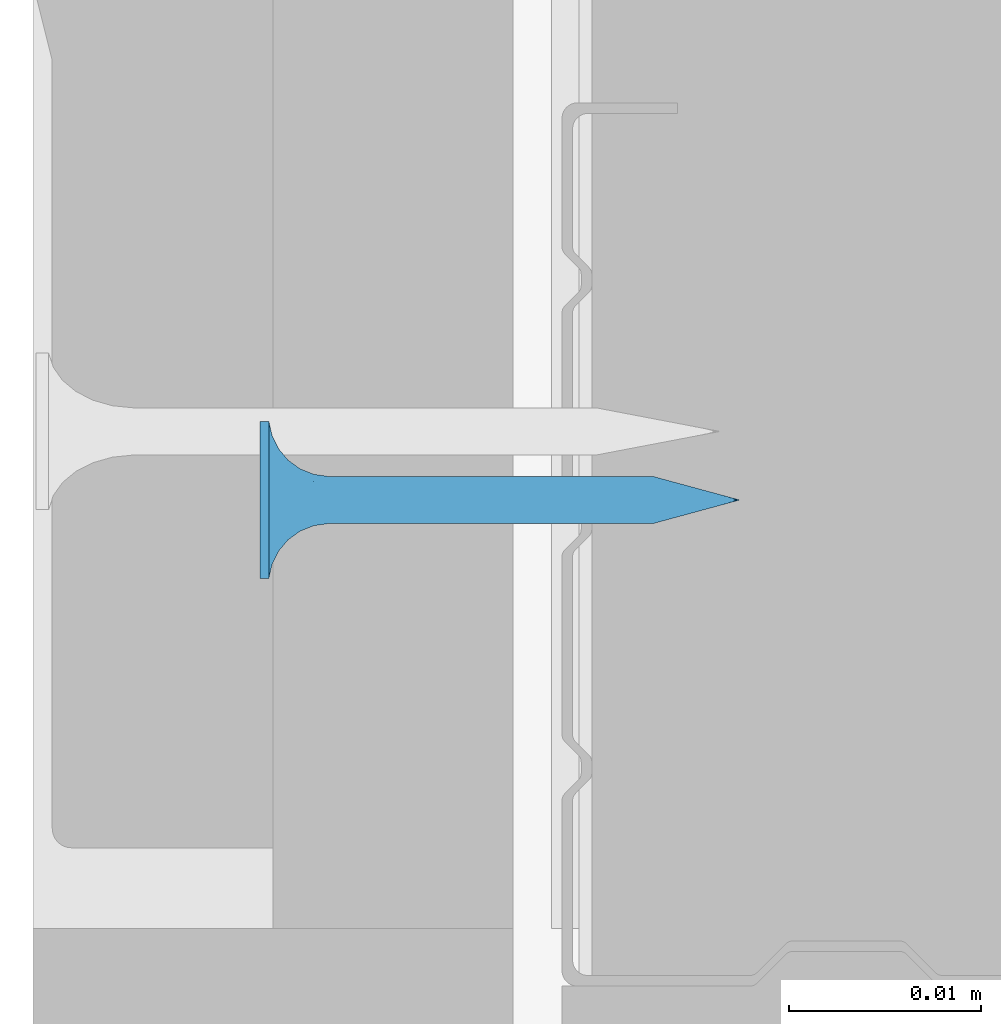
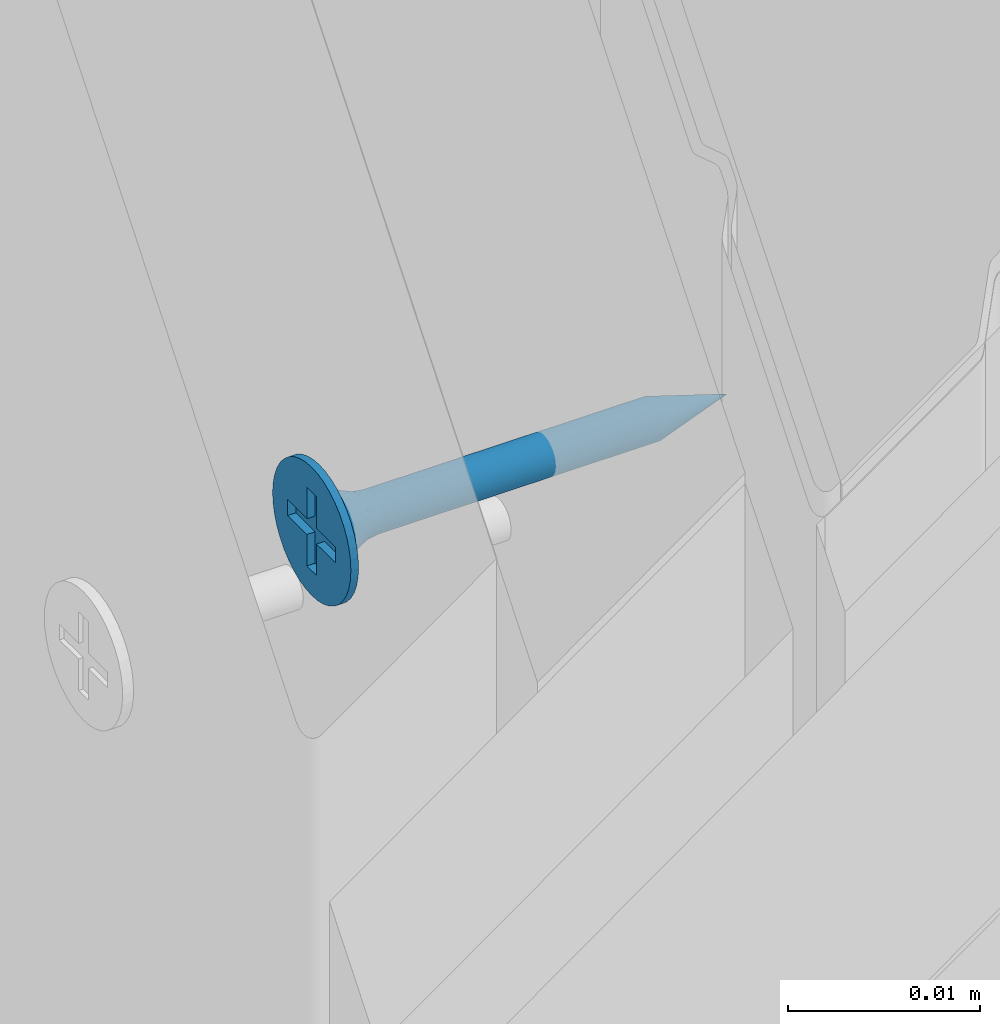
# One storey, part 53 of 92: 1 wall.
"""IFC2X3 building model written with IfcOpenShell, lengths in millimetres."""

from ifc_helpers import new_model, si_unit, frame, origin_with_axes, place, context, subcontext, project, spatial, faceted_brep, material, type_object, element, save


model = new_model("IFC2X3")

# Units and contexts
model_context = context("Model", 3, world=origin_with_axes())
body_context = subcontext(model_context, "Body", "Model", "MODEL_VIEW")
ifc_project = project(units=[si_unit("LENGTHUNIT", "METRE", prefix="MILLI"), si_unit("AREAUNIT", "SQUARE_METRE"), si_unit("VOLUMEUNIT", "CUBIC_METRE")], contexts=[model_context])

# Site, building, storey
site_placement = place(None, origin_with_axes())
site = spatial("IfcSite", under=ifc_project, at=site_placement, Name="Default Site", CompositionType="ELEMENT")
building_placement = place(site_placement, origin_with_axes())
building = spatial("IfcBuilding", under=site, at=building_placement, Name="Default Building", CompositionType="ELEMENT")
storey_placement = place(building_placement, origin_with_axes())
storey = spatial("IfcBuildingStorey", under=building, at=storey_placement, Name="Default Building Storey", CompositionType="ELEMENT", Elevation=0.0)

# Wall
ifc_material = material(Name="Default")
wall_type = type_object("IfcWallType", Name="Wkręt RIGIPS TN 25#16", PredefinedType="NOTDEFINED")
wall_placement = place(storey_placement, frame((3402.8417088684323, 2.8723069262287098, 392.1937980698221), z_axis=(0.0, 0.0, 1.0), x_axis=(4.091171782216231e-16, -1.0, 0.0)))
element("IfcWall", 1, at=wall_placement, inside=storey, type_object=wall_type, material=ifc_material, Name="Wkręt RIGIPS TN 25", context=body_context, shape_type="Brep", body=[
    faceted_brep([(-141.48753293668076, -3390.5567221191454, 555.1619773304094), (-141.48753293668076, -3391.0209445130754, 555.1619773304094), (-141.53774659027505, -3391.0209445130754, 555.8000000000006), (-141.53774659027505, -3390.5567221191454, 555.8000000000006), (-141.33812900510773, -3390.5567221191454, 554.5396649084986), (-141.33812900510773, -3391.0209445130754, 554.5396649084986), (-141.0932132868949, -3390.5567221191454, 553.948386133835), (-141.0932132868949, -3391.0209445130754, 553.948386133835), (-140.75881656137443, -3390.5567221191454, 553.4027002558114), (-140.75881656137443, -3391.0209445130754, 553.4027002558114), (-140.34317265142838, -3391.0209445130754, 552.9160436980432), (-140.45417279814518, -3390.5567221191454, 553.0314906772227), (-139.85651609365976, -3391.0209445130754, 552.5003997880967), (-140.10800974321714, -3390.5567221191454, 552.6986613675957), (-139.72512626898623, -3390.5567221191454, 552.4088260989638), (-139.31083021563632, -3391.0209445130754, 552.1660030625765), (-139.31083021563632, -3390.5567221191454, 552.1660030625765), (-138.7195514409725, -3391.0209445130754, 551.9210873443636), (-138.87086516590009, -3390.5567221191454, 551.9735585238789), (-138.41133029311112, -3390.5567221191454, 551.8341602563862), (-138.0972390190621, -3391.0209445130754, 551.7716834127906), (-137.93859616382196, -3390.5567221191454, 551.74974052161), (-137.45921634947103, -3391.0209445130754, 551.7214697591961), (-137.45921634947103, -3390.5567221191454, 551.7214697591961), (-136.82119367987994, -3390.5567221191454, 551.7716834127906), (-136.82119367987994, -3391.0209445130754, 551.7716834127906), (-136.19888125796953, -3390.5567221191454, 551.9210873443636), (-136.19888125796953, -3391.0209445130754, 551.9210873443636), (-135.60760248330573, -3390.5567221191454, 552.1660030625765), (-135.60760248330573, -3391.0209445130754, 552.1660030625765), (-135.06191660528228, -3390.5567221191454, 552.5003997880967), (-135.06191660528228, -3391.0209445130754, 552.5003997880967), (-134.5752600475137, -3390.5567221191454, 552.9160436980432), (-134.5752600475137, -3391.0209445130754, 552.9160436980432), (-134.1596161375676, -3390.5567221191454, 553.4027002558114), (-134.1596161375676, -3391.0209445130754, 553.4027002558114), (-133.82521941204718, -3390.5567221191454, 553.948386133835), (-133.82521941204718, -3391.0209445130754, 553.948386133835), (-133.5803036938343, -3390.5567221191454, 554.5396649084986), (-133.5803036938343, -3391.0209445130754, 554.5396649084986), (-133.380686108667, -3391.0209445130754, 555.8000000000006), (-133.380686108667, -3390.5567221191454, 555.8000000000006), (-133.43089976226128, -3390.5567221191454, 556.4380226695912), (-133.43089976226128, -3391.0209445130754, 556.4380226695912), (-133.43089976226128, -3391.0209445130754, 555.1619773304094), (-133.43089976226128, -3390.5567221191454, 555.1619773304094), (-133.5803036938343, -3390.5567221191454, 557.060335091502), (-133.5803036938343, -3391.0209445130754, 557.060335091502), (-133.82521941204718, -3390.5567221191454, 557.6516138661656), (-133.82521941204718, -3391.0209445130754, 557.6516138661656), (-134.1596161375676, -3390.5567221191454, 558.1972997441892), (-134.1596161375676, -3391.0209445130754, 558.1972997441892), (-134.5752600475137, -3390.5567221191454, 558.6839563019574), (-134.5752600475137, -3391.0209445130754, 558.6839563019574), (-135.06191660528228, -3390.5567221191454, 559.0996002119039), (-135.06191660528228, -3391.0209445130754, 559.0996002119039), (-135.60760248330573, -3390.5567221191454, 559.4339969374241), (-135.60760248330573, -3391.0209445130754, 559.4339969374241), (-136.19888125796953, -3390.5567221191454, 559.678912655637), (-136.19888125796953, -3391.0209445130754, 559.678912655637), (-136.82119367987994, -3390.5567221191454, 559.82831658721), (-136.82119367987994, -3391.0209445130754, 559.82831658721), (-137.45921634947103, -3390.5567221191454, 559.8785302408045), (-137.45921634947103, -3391.0209445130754, 559.8785302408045), (-138.0972390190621, -3390.5567221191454, 559.82831658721), (-138.0972390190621, -3391.0209445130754, 559.82831658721), (-138.7195514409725, -3390.5567221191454, 559.678912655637), (-138.7195514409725, -3391.0209445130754, 559.678912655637), (-139.31083021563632, -3390.5567221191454, 559.4339969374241), (-139.31083021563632, -3391.0209445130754, 559.4339969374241), (-139.85651609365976, -3390.5567221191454, 559.0996002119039), (-139.85651609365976, -3391.0209445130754, 559.0996002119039), (-140.34317265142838, -3390.5567221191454, 558.6839563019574), (-140.34317265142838, -3391.0209445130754, 558.6839563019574), (-140.75881656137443, -3390.5567221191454, 558.1972997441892), (-140.75881656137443, -3391.0209445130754, 558.1972997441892), (-141.0932132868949, -3390.5567221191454, 557.6516138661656), (-141.0932132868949, -3391.0209445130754, 557.6516138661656), (-141.33812900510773, -3390.5567221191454, 557.060335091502), (-141.33812900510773, -3391.0209445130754, 557.060335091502), (-141.48753293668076, -3390.5567221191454, 556.4380226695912), (-141.48753293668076, -3391.0209445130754, 556.4380226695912), (-137.65172779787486, -3387.475459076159, 554.5845305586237), (-137.45921634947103, -3387.475459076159, 554.5693795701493), (-137.8060615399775, -3388.2297325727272, 554.5055561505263), (-137.45921634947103, -3388.2297325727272, 554.4598930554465), (-137.8394989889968, -3387.475459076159, 554.6296104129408), (-138.12926982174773, -3388.2297325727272, 554.6394333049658), (-138.0179063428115, -3387.475459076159, 554.7035091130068), (-138.18255689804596, -3387.475459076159, 554.8044072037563), (-138.40681506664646, -3388.2297325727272, 554.8524012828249), (-138.3293964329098, -3387.475459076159, 554.9298199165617), (-138.45480914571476, -3387.475459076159, 555.0766594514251), (-138.61978304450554, -3388.2297325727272, 555.1299465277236), (-138.5557072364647, -3387.475459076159, 555.2413100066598), (-138.7536601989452, -3388.2297325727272, 555.453154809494), (-138.62960593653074, -3387.475459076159, 555.4197173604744), (-138.6746857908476, -3387.475459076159, 555.6074885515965), (-138.7993232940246, -3388.2297325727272, 555.7999999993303), (-138.68983677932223, -3387.475459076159, 555.8000000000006), (-138.6746857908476, -3387.475459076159, 555.9925114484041), (-138.7536601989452, -3388.2297325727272, 556.1468451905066), (-138.62960593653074, -3387.475459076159, 556.1802826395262), (-138.61978304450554, -3388.2297325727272, 556.470053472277), (-138.5557072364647, -3387.475459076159, 556.3586899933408), (-138.45480914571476, -3387.475459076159, 556.5233405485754), (-138.40681506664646, -3388.2297325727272, 556.7475987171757), (-138.3293964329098, -3387.475459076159, 556.6701800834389), (-138.18255689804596, -3387.475459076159, 556.7955927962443), (-138.12926982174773, -3388.2297325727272, 556.9605666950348), (-138.0179063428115, -3387.475459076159, 556.8964908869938), (-137.8060615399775, -3388.2297325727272, 557.0944438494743), (-137.8394989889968, -3387.475459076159, 556.9703895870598), (-137.65172779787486, -3387.475459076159, 557.0154694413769), (-137.45921634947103, -3388.2297325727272, 557.1401069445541), (-137.45921634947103, -3387.475459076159, 557.0306204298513), (-137.2667049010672, -3387.475459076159, 557.0154694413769), (-137.11237115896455, -3388.2297325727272, 557.0944438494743), (-137.07893370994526, -3387.475459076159, 556.9703895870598), (-136.78916287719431, -3388.2297325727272, 556.9605666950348), (-136.90052635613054, -3387.475459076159, 556.8964908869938), (-136.7358758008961, -3387.475459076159, 556.7955927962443), (-136.5116176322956, -3388.2297325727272, 556.7475987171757), (-136.58903626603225, -3387.475459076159, 556.6701800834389), (-136.46362355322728, -3387.475459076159, 556.5233405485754), (-136.29864965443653, -3388.2297325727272, 556.470053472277), (-136.36272546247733, -3387.475459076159, 556.3586899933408), (-136.16477249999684, -3388.2297325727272, 556.1468451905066), (-136.2888267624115, -3387.475459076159, 556.1802826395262), (-136.24374690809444, -3387.475459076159, 555.9925114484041), (-136.11910940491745, -3388.2297325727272, 555.7999999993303), (-136.22859591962, -3387.475459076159, 555.8000000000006), (-136.24374690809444, -3387.475459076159, 555.6074885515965), (-136.16477249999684, -3388.2297325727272, 555.453154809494), (-136.2888267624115, -3387.475459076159, 555.4197173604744), (-136.29864965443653, -3388.2297325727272, 555.1299465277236), (-136.36272546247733, -3387.475459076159, 555.2413100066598), (-136.46362355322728, -3387.475459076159, 555.0766594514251), (-136.5116176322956, -3388.2297325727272, 554.8524012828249), (-136.58903626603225, -3387.475459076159, 554.9298199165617), (-136.7358758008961, -3387.475459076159, 554.8044072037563), (-136.78916287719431, -3388.2297325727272, 554.6394333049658), (-136.90052635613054, -3387.475459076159, 554.7035091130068), (-137.11237115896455, -3388.2297325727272, 554.5055561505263), (-137.07893370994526, -3387.475459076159, 554.6296104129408), (-137.2667049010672, -3387.475459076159, 554.5845305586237), (-137.45921634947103, -3388.9361426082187, 554.1737111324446), (-137.88013087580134, -3388.9361426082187, 554.2291255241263), (-138.27236078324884, -3388.9361426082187, 554.3915925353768), (-138.60917621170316, -3388.9361426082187, 554.6500401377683), (-138.8676238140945, -3388.9361426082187, 554.9868555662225), (-139.03009082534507, -3388.9361426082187, 555.3790854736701), (-139.08550521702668, -3388.9361426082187, 555.7999999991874), (-139.03009082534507, -3388.9361426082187, 556.2209145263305), (-138.8676238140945, -3388.9361426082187, 556.6131444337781), (-138.60917621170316, -3388.9361426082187, 556.9499598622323), (-138.27236078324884, -3388.9361426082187, 557.2084074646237), (-137.88013087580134, -3388.9361426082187, 557.3708744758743), (-137.45921634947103, -3388.9361426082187, 557.426288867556), (-137.0383018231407, -3388.9361426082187, 557.3708744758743), (-136.6460719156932, -3388.9361426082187, 557.2084074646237), (-136.30925648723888, -3388.9361426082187, 556.9499598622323), (-136.05080888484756, -3388.9361426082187, 556.6131444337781), (-135.888341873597, -3388.9361426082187, 556.2209145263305), (-135.8329274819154, -3388.9361426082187, 555.7999999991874), (-135.888341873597, -3388.9361426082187, 555.3790854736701), (-136.05080888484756, -3388.9361426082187, 554.9868555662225), (-136.30925648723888, -3388.9361426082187, 554.6500401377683), (-136.6460719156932, -3388.9361426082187, 554.3915925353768), (-137.0383018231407, -3388.9361426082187, 554.2291255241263), (-137.45921634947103, -3389.5539382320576, 553.7273430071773), (-137.9956594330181, -3389.5539382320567, 553.7979670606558), (-138.4955448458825, -3389.5539382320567, 554.0050264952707), (-138.92480608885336, -3389.5539382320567, 554.3344102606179), (-139.2541898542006, -3389.5539382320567, 554.7636715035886), (-139.46124928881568, -3389.5539382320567, 555.2635569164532), (-139.53187334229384, -3389.5539382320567, 555.799999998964), (-139.46124928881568, -3389.5539382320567, 556.3364430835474), (-139.2541898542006, -3389.5539382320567, 556.836328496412), (-138.92480608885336, -3389.5539382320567, 557.2655897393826), (-138.4955448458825, -3389.5539382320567, 557.5949735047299), (-137.9956594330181, -3389.5539382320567, 557.8020329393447), (-137.45921634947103, -3389.5539382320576, 557.8726569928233), (-136.92277326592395, -3389.5539382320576, 557.8020329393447), (-136.42288785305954, -3389.5539382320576, 557.5949735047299), (-135.9936266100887, -3389.5539382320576, 557.2655897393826), (-135.66424284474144, -3389.5539382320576, 556.836328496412), (-135.45718341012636, -3389.5539382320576, 556.3364430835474), (-135.3865593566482, -3389.5539382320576, 555.799999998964), (-135.45718341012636, -3389.5539382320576, 555.2635569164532), (-135.66424284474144, -3389.5539382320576, 554.7636715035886), (-135.9936266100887, -3389.5539382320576, 554.3344102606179), (-136.42288785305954, -3389.5539382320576, 554.0050264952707), (-136.92277326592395, -3389.5539382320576, 553.7979670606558), (-137.45921634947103, -3390.047479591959, 553.1465392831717), (-138.14598252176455, -3390.047479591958, 553.2369539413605), (-138.7859467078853, -3390.047479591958, 553.5020355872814), (-139.33549641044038, -3390.047479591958, 553.9237199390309), (-139.75718076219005, -3390.047479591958, 554.4732696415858), (-140.02226240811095, -3390.047479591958, 555.1132338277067), (-140.11267706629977, -3390.047479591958, 555.7999999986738), (-140.02226240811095, -3390.047479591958, 556.4867661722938), (-139.75718076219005, -3390.047479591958, 557.1267303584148), (-139.33549641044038, -3390.047479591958, 557.6762800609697), (-138.7859467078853, -3390.047479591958, 558.0979644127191), (-138.14598252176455, -3390.047479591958, 558.3630460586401), (-137.45921634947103, -3390.047479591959, 558.4534607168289), (-136.77245017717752, -3390.047479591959, 558.3630460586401), (-136.13248599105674, -3390.047479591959, 558.0979644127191), (-135.58293628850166, -3390.047479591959, 557.6762800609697), (-135.161251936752, -3390.047479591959, 557.1267303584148), (-134.89617029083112, -3390.047479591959, 556.4867661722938), (-134.80575563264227, -3390.047479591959, 555.7999999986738), (-134.89617029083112, -3390.047479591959, 555.1132338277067), (-135.161251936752, -3390.047479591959, 554.4732696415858), (-135.58293628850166, -3390.047479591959, 553.9237199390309), (-136.13248599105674, -3390.047479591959, 553.5020355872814), (-136.77245017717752, -3390.047479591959, 553.2369539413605), (-137.45921634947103, -3390.3882942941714, 552.4648055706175), (-138.32242816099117, -3390.3882942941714, 552.5784495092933), (-139.1268135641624, -3390.3882942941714, 552.9116369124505), (-139.8175549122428, -3390.3882942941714, 553.4416614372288), (-140.3475794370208, -3390.3882942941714, 554.1324027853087), (-140.6807668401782, -3390.3882942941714, 554.9367881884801), (-140.79441077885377, -3390.3882942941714, 555.7999999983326), (-140.6807668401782, -3390.3882942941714, 556.6632118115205), (-140.3475794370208, -3390.3882942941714, 557.4675972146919), (-139.8175549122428, -3390.3882942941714, 558.1583385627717), (-139.1268135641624, -3390.3882942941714, 558.6883630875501), (-138.32242816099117, -3390.3882942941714, 559.0215504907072), (-137.45921634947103, -3390.3882942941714, 559.1351944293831), (-136.59600453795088, -3390.3882942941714, 559.0215504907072), (-135.79161913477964, -3390.3882942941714, 558.6883630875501), (-135.10087778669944, -3390.3882942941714, 558.1583385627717), (-134.57085326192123, -3390.3882942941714, 557.4675972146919), (-134.23766585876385, -3390.3882942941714, 556.6632118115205), (-134.12402192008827, -3390.3882942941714, 555.7999999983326), (-134.23766585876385, -3390.3882942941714, 554.9367881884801), (-134.57085326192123, -3390.3882942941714, 554.1324027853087), (-135.10087778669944, -3390.3882942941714, 553.4416614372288), (-135.79161913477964, -3390.3882942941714, 552.9116369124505), (-136.59600453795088, -3390.3882942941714, 552.5784495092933), (-138.6746857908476, -3370.558073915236, 555.6074885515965), (-138.68983677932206, -3370.558073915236, 555.8000000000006), (-138.62960593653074, -3370.558073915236, 555.4197173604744), (-138.5557072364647, -3370.558073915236, 555.2413100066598), (-138.45480914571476, -3370.558073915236, 555.0766594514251), (-138.3293964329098, -3370.558073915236, 554.9298199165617), (-138.18255689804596, -3370.558073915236, 554.8044072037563), (-138.0179063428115, -3370.558073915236, 554.7035091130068), (-137.8394989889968, -3370.558073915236, 554.6296104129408), (-137.65172779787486, -3370.558073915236, 554.5845305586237), (-137.45921634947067, -3370.558073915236, 554.5693795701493), (-137.2667049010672, -3370.558073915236, 554.5845305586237), (-137.07893370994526, -3370.558073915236, 554.6296104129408), (-136.90052635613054, -3370.558073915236, 554.7035091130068), (-136.7358758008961, -3370.558073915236, 554.8044072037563), (-136.58903626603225, -3370.558073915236, 554.9298199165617), (-136.46362355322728, -3370.558073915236, 555.0766594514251), (-136.36272546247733, -3370.558073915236, 555.2413100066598), (-136.28882676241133, -3370.558073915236, 555.4197173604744), (-136.2285959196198, -3370.558073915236, 555.8000000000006), (-136.24374690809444, -3370.558073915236, 555.9925114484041), (-136.24374690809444, -3370.558073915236, 555.6074885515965), (-136.28882676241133, -3370.558073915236, 556.1802826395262), (-136.36272546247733, -3370.558073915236, 556.3586899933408), (-136.46362355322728, -3370.558073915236, 556.5233405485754), (-136.58903626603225, -3370.558073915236, 556.6701800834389), (-136.7358758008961, -3370.558073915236, 556.7955927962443), (-136.90052635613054, -3370.558073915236, 556.8964908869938), (-137.07893370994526, -3370.558073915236, 556.9703895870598), (-137.2667049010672, -3370.558073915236, 557.0154694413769), (-137.45921634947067, -3370.558073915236, 557.0306204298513), (-137.65172779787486, -3370.558073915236, 557.0154694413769), (-137.8394989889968, -3370.558073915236, 556.9703895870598), (-138.0179063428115, -3370.558073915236, 556.8964908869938), (-138.18255689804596, -3370.558073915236, 556.7955927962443), (-138.3293964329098, -3370.558073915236, 556.6701800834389), (-138.45480914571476, -3370.558073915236, 556.5233405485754), (-138.5557072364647, -3370.558073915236, 556.3586899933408), (-138.62960593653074, -3370.558073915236, 556.1802826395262), (-138.6746857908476, -3370.558073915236, 555.9925114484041), (-137.45921634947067, -3366.0210335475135, 555.8000000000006), (-139.95921629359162, -3391.0209445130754, 555.2999999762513), (-139.95921629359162, -3391.0209445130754, 556.3000000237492), (-137.95921637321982, -3391.0209445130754, 556.3000000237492), (-137.95921637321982, -3391.0209445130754, 558.2999999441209), (-136.95921632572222, -3391.0209445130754, 558.2999999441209), (-136.95921632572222, -3391.0209445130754, 556.3000000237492), (-134.95921640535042, -3391.0209445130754, 556.3000000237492), (-134.95921640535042, -3391.0209445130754, 555.2999999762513), (-136.95921632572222, -3391.0209445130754, 555.2999999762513), (-136.95921632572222, -3391.0209445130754, 553.3000000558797), (-137.95921637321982, -3391.0209445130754, 553.3000000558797), (-137.95921637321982, -3391.0209445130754, 555.2999999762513), (-136.95921632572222, -3390.5289749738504, 558.2999999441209), (-137.95921637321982, -3390.5289749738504, 558.2999999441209), (-137.95921637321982, -3390.5289749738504, 556.3000000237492), (-139.95921629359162, -3390.5289749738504, 556.3000000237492), (-139.95921629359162, -3390.5289749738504, 555.2999999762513), (-137.95921637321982, -3390.5289749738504, 555.2999999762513), (-137.95921637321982, -3390.5289749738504, 553.3000000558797), (-136.95921632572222, -3390.5289749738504, 553.3000000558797), (-136.95921632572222, -3390.5289749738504, 555.2999999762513), (-134.95921640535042, -3390.5289749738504, 555.2999999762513), (-134.95921640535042, -3390.5289749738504, 556.3000000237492), (-136.95921632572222, -3390.5289749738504, 556.3000000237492)], [[[0, 1, 2, 3]], [[1, 0, 4, 5]], [[5, 4, 6, 7]], [[8, 9, 7, 6]], [[8, 10, 9]], [[8, 11, 10]], [[12, 11, 13]], [[12, 10, 11]], [[13, 14, 12]], [[14, 15, 12]], [[14, 16, 15]], [[17, 16, 18]], [[17, 15, 16]], [[18, 19, 17]], [[20, 19, 21]], [[20, 17, 19]], [[21, 22, 20]], [[21, 23, 22]], [[24, 25, 22, 23]], [[25, 24, 26, 27]], [[27, 26, 28, 29]], [[30, 31, 29, 28]], [[31, 30, 32, 33]], [[34, 35, 33, 32]], [[35, 34, 36, 37]], [[37, 36, 38, 39]], [[40, 41, 42, 43]], [[44, 45, 41, 40]], [[45, 44, 39, 38]], [[43, 42, 46, 47]], [[47, 46, 48, 49]], [[50, 51, 49, 48]], [[51, 50, 52, 53]], [[54, 55, 53, 52]], [[55, 54, 56, 57]], [[57, 56, 58, 59]], [[60, 61, 59, 58]], [[61, 60, 62, 63]], [[64, 65, 63, 62]], [[65, 64, 66, 67]], [[67, 66, 68, 69]], [[70, 71, 69, 68]], [[71, 70, 72, 73]], [[74, 75, 73, 72]], [[75, 74, 76, 77]], [[77, 76, 78, 79]], [[80, 81, 79, 78]], [[81, 80, 3, 2]], [[82, 83, 84]], [[83, 85, 84]], [[84, 86, 82]], [[84, 87, 88, 86]], [[89, 88, 87]], [[87, 90, 89]], [[90, 91, 89]], [[92, 91, 93]], [[91, 90, 93]], [[93, 94, 92]], [[93, 95, 96, 94]], [[97, 96, 95]], [[95, 98, 97]], [[98, 99, 97]], [[100, 99, 101]], [[99, 98, 101]], [[101, 102, 100]], [[101, 103, 104, 102]], [[105, 104, 103]], [[103, 106, 105]], [[106, 107, 105]], [[108, 107, 109]], [[107, 106, 109]], [[109, 110, 108]], [[109, 111, 112, 110]], [[113, 112, 111]], [[111, 114, 113]], [[114, 115, 113]], [[116, 115, 117]], [[115, 114, 117]], [[117, 118, 116]], [[117, 119, 120, 118]], [[121, 120, 119]], [[119, 122, 121]], [[122, 123, 121]], [[124, 123, 125]], [[123, 122, 125]], [[125, 126, 124]], [[125, 127, 128, 126]], [[129, 128, 127]], [[127, 130, 129]], [[130, 131, 129]], [[132, 131, 133]], [[131, 130, 133]], [[133, 134, 132]], [[133, 135, 136, 134]], [[137, 136, 135]], [[135, 138, 137]], [[138, 139, 137]], [[140, 139, 141]], [[139, 138, 141]], [[141, 142, 140]], [[141, 143, 144, 142]], [[145, 144, 143]], [[143, 85, 145]], [[85, 83, 145]], [[146, 147, 84, 85]], [[84, 147, 148, 87]], [[87, 148, 149, 90]], [[90, 149, 150, 93]], [[93, 150, 151, 95]], [[95, 151, 152, 98]], [[98, 152, 153, 101]], [[101, 153, 154, 103]], [[103, 154, 155, 106]], [[106, 155, 156, 109]], [[109, 156, 157, 111]], [[111, 157, 158, 114]], [[114, 158, 159, 117]], [[117, 159, 160, 119]], [[119, 160, 161, 122]], [[122, 161, 162, 125]], [[125, 162, 163, 127]], [[127, 163, 164, 130]], [[130, 164, 165, 133]], [[133, 165, 166, 135]], [[135, 166, 167, 138]], [[138, 167, 168, 141]], [[141, 168, 169, 143]], [[143, 169, 146, 85]], [[170, 171, 147, 146]], [[147, 171, 172, 148]], [[148, 172, 173, 149]], [[149, 173, 174, 150]], [[150, 174, 175, 151]], [[151, 175, 176, 152]], [[152, 176, 177, 153]], [[153, 177, 178, 154]], [[154, 178, 179, 155]], [[155, 179, 180, 156]], [[156, 180, 181, 157]], [[157, 181, 182, 158]], [[158, 182, 183, 159]], [[159, 183, 184, 160]], [[160, 184, 185, 161]], [[161, 185, 186, 162]], [[162, 186, 187, 163]], [[163, 187, 188, 164]], [[164, 188, 189, 165]], [[165, 189, 190, 166]], [[166, 190, 191, 167]], [[167, 191, 192, 168]], [[168, 192, 193, 169]], [[169, 193, 170, 146]], [[194, 195, 171, 170]], [[171, 195, 196, 172]], [[172, 196, 197, 173]], [[173, 197, 198, 174]], [[174, 198, 199, 175]], [[175, 199, 200, 176]], [[176, 200, 201, 177]], [[177, 201, 202, 178]], [[178, 202, 203, 179]], [[179, 203, 204, 180]], [[180, 204, 205, 181]], [[181, 205, 206, 182]], [[182, 206, 207, 183]], [[183, 207, 208, 184]], [[184, 208, 209, 185]], [[185, 209, 210, 186]], [[186, 210, 211, 187]], [[187, 211, 212, 188]], [[188, 212, 213, 189]], [[189, 213, 214, 190]], [[190, 214, 215, 191]], [[191, 215, 216, 192]], [[192, 216, 217, 193]], [[193, 217, 194, 170]], [[21, 19, 218]], [[19, 219, 218]], [[218, 23, 21]], [[218, 219, 195, 194]], [[18, 16, 219]], [[16, 220, 219]], [[219, 19, 18]], [[195, 219, 220, 196]], [[13, 11, 221]], [[14, 13, 220]], [[13, 221, 220]], [[220, 16, 14]], [[196, 220, 221, 197]], [[8, 6, 222]], [[222, 221, 8]], [[221, 11, 8]], [[197, 221, 222, 198]], [[4, 223, 222, 6]], [[198, 222, 223, 199]], [[0, 3, 223]], [[3, 224, 223]], [[223, 4, 0]], [[199, 223, 224, 200]], [[80, 78, 225]], [[225, 224, 80]], [[224, 3, 80]], [[200, 224, 225, 201]], [[78, 76, 226, 225]], [[201, 225, 226, 202]], [[74, 72, 226]], [[72, 227, 226]], [[226, 76, 74]], [[202, 226, 227, 203]], [[70, 68, 228]], [[228, 227, 70]], [[227, 72, 70]], [[203, 227, 228, 204]], [[68, 66, 229, 228]], [[204, 228, 229, 205]], [[64, 62, 229]], [[62, 230, 229]], [[229, 66, 64]], [[205, 229, 230, 206]], [[60, 58, 231]], [[231, 230, 60]], [[230, 62, 60]], [[206, 230, 231, 207]], [[58, 56, 232, 231]], [[207, 231, 232, 208]], [[54, 52, 232]], [[52, 233, 232]], [[232, 56, 54]], [[208, 232, 233, 209]], [[50, 48, 234]], [[234, 233, 50]], [[233, 52, 50]], [[209, 233, 234, 210]], [[48, 46, 235, 234]], [[210, 234, 235, 211]], [[42, 41, 235]], [[41, 236, 235]], [[235, 46, 42]], [[211, 235, 236, 212]], [[45, 38, 237]], [[237, 236, 45]], [[236, 41, 45]], [[212, 236, 237, 213]], [[36, 238, 237, 38]], [[213, 237, 238, 214]], [[34, 32, 238]], [[32, 239, 238]], [[238, 36, 34]], [[214, 238, 239, 215]], [[30, 28, 240]], [[240, 239, 30]], [[239, 32, 30]], [[215, 239, 240, 216]], [[26, 241, 240, 28]], [[216, 240, 241, 217]], [[217, 241, 218, 194]], [[24, 23, 241]], [[23, 218, 241]], [[241, 26, 24]], [[242, 97, 99, 243]], [[97, 242, 244, 96]], [[96, 244, 245, 94]], [[246, 92, 94, 245]], [[92, 246, 247, 91]], [[248, 89, 91, 247]], [[89, 248, 249, 88]], [[88, 249, 250, 86]], [[251, 82, 86, 250]], [[82, 251, 252, 83]], [[253, 145, 83, 252]], [[145, 253, 254, 144]], [[144, 254, 255, 142]], [[256, 140, 142, 255]], [[140, 256, 257, 139]], [[258, 137, 139, 257]], [[137, 258, 259, 136]], [[136, 259, 260, 134]], [[131, 261, 262, 129]], [[132, 263, 261, 131]], [[263, 132, 134, 260]], [[129, 262, 264, 128]], [[128, 264, 265, 126]], [[266, 124, 126, 265]], [[124, 266, 267, 123]], [[268, 121, 123, 267]], [[121, 268, 269, 120]], [[120, 269, 270, 118]], [[271, 116, 118, 270]], [[116, 271, 272, 115]], [[273, 113, 115, 272]], [[113, 273, 274, 112]], [[112, 274, 275, 110]], [[276, 108, 110, 275]], [[108, 276, 277, 107]], [[278, 105, 107, 277]], [[105, 278, 279, 104]], [[104, 279, 280, 102]], [[281, 100, 102, 280]], [[100, 281, 243, 99]], [[282, 244, 242]], [[242, 243, 282]], [[282, 245, 244]], [[282, 247, 246]], [[246, 245, 282]], [[282, 249, 248]], [[248, 247, 282]], [[282, 250, 249]], [[282, 252, 251]], [[251, 250, 282]], [[282, 254, 253]], [[253, 252, 282]], [[282, 255, 254]], [[282, 257, 256]], [[256, 255, 282]], [[282, 259, 258]], [[258, 257, 282]], [[282, 260, 259]], [[282, 261, 263]], [[263, 260, 282]], [[282, 264, 262]], [[262, 261, 282]], [[282, 265, 264]], [[282, 267, 266]], [[266, 265, 282]], [[282, 269, 268]], [[268, 267, 282]], [[282, 270, 269]], [[282, 272, 271]], [[271, 270, 282]], [[282, 274, 273]], [[273, 272, 282]], [[282, 275, 274]], [[282, 277, 276]], [[276, 275, 282]], [[282, 279, 278]], [[278, 277, 282]], [[282, 280, 279]], [[282, 243, 281]], [[281, 280, 282]], [[75, 77, 79, 81, 2, 1, 5, 7, 9, 10, 12, 15, 17, 20, 22, 25, 27, 29, 31, 33, 35, 37, 39, 44, 40, 43, 47, 49, 51, 53, 55, 57, 59, 61, 63, 65, 67, 69, 71, 73], [283, 284, 285, 286, 287, 288, 289, 290, 291, 292, 293, 294]], [[295, 296, 297, 298, 299, 300, 301, 302, 303, 304, 305, 306]], [[303, 291, 290, 304]], [[304, 290, 289, 305]], [[305, 289, 288, 306]], [[306, 288, 287, 295]], [[295, 287, 286, 296]], [[296, 286, 285, 297]], [[297, 285, 284, 298]], [[298, 284, 283, 299]], [[299, 283, 294, 300]], [[300, 294, 293, 301]], [[301, 293, 292, 302]], [[302, 292, 291, 303]]]),
])

save(model, "model.ifc")
